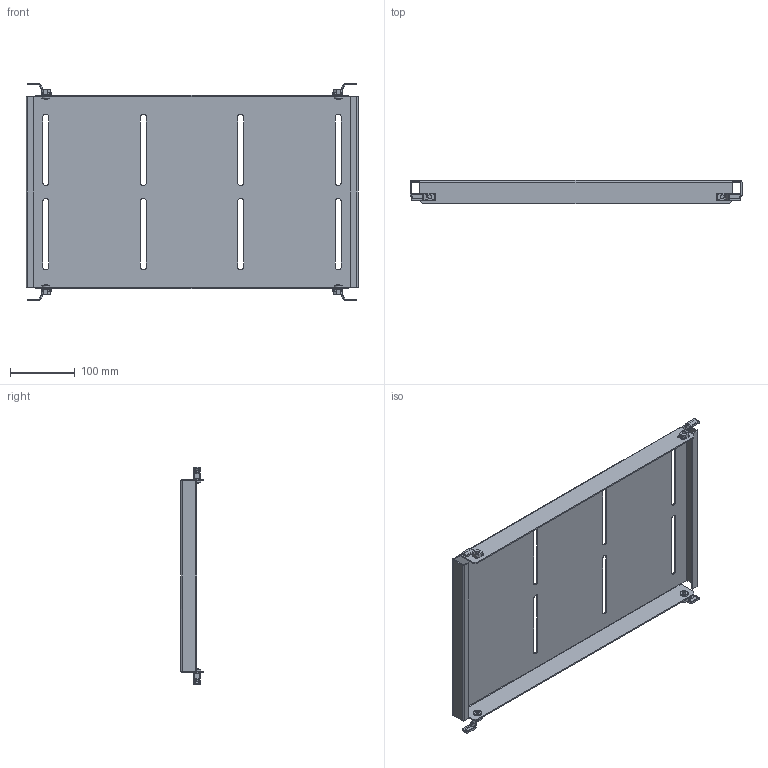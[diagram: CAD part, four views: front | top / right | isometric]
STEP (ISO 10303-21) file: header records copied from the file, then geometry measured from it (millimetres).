
FILE_DESCRIPTION(('CAx-IF Rec.Pracs.---Model Styling and Organization---1.2---2011-12-15','CAx-IF Rec.Pracs.---Geometric and Assembly Validation Properties---4.1---2014-06-16','CAx-IF Rec.Pracs.---PMI Polyline Presentation---2.0---2013-05-24'),'2;1');
FILE_NAME('R5D5460.stp','2021-05-05T15:02:29+03:00',(''),(''),'STEP Interface 4.4 by CT CoreTechnologie','3D_Evolution4.4 by CT CoreTechnologie','');
FILE_SCHEMA(('AUTOMOTIVE_DESIGN { 1 0 10303 214 1 1 1 1 }'));
Length unit declared in the file: millimetre
Products named in the file (4): R5D5460; M6x16-DIN 7985 ISR_thread; AC00C485; RB.0703.00.00.0_-02
Assembly tree (9 placements, depth 2):
  R5D5460
    M6x16-DIN 7985 ISR_thread  x4
    AC00C485  x4
    RB.0703.00.00.0_-02
Bounding box: 511 x 35 x 335 mm (x, y, z)
Surface area: 403001.4 mm2 (no closed solid volume)
Topology: 0 solids, 13 shells, 458 faces, 1148 edges, 704 vertices
Faces by surface type: cylinder 204, plane 198, bspline 56
Entity records: 6382 total; most frequent: CARTESIAN_POINT 1483, DIRECTION 991, ORIENTED_EDGE 956, EDGE_CURVE 478, AXIS2_PLACEMENT_3D 346, VERTEX_POINT 302, VECTOR 299, LINE 299
